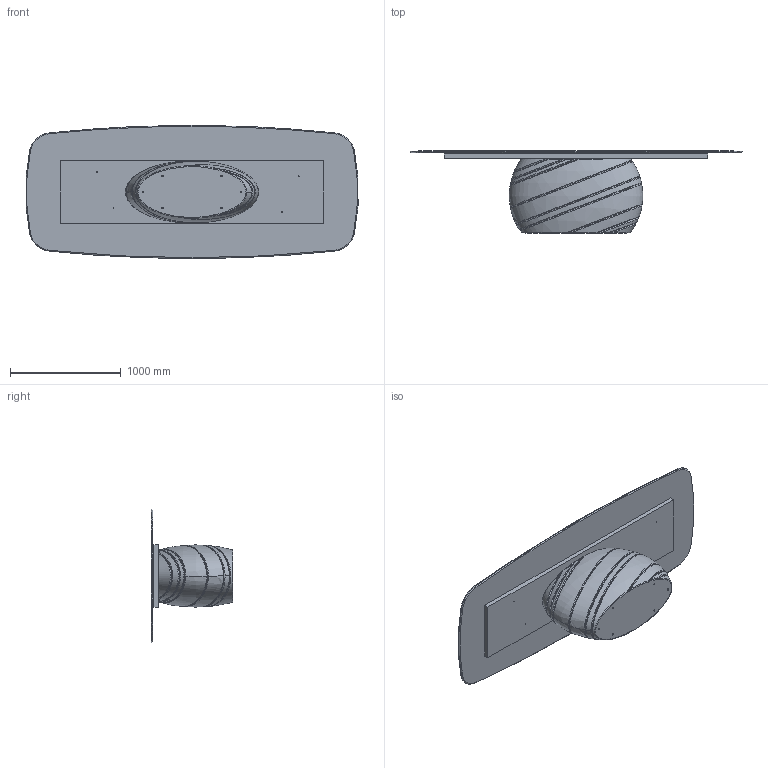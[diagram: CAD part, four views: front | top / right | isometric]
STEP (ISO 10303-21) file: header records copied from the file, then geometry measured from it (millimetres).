
FILE_DESCRIPTION (( 'STEP AP203' ), '1' );
FILE_NAME ('GI44C.STEP', '2025-04-22T14:16:11', ( '' ), ( '' ), 'SwSTEP 2.0', 'SolidWorks 2022', '' );
FILE_SCHEMA (( 'CONFIG_CONTROL_DESIGN' ));
Length unit declared in the file: millimetre
Products named in the file (3): GIB000xxx-00-BASE GIOVE X 300; GI44C; PIANI_modello 3D x web_Ceramica 300x120 sag
Assembly tree (2 placements, depth 2):
  GI44C
    PIANI_modello 3D x web_Ceramica 300x120 sag
    GIB000xxx-00-BASE GIOVE X 300
Bounding box: 2991.72 x 738 x 1200 mm (x, y, z)
Volume: 423265496.6 mm3; surface area: 12464252 mm2
Topology: 3 solids, 3 shells, 162 faces, 391 edges, 250 vertices
Faces by surface type: bspline 53, cylinder 45, cone 33, plane 31
Entity records: 37364 total; most frequent: CARTESIAN_POINT 33631, ORIENTED_EDGE 782, DIRECTION 602, EDGE_CURVE 391, VERTEX_POINT 250, AXIS2_PLACEMENT_3D 250, EDGE_LOOP 189, ADVANCED_FACE 162
